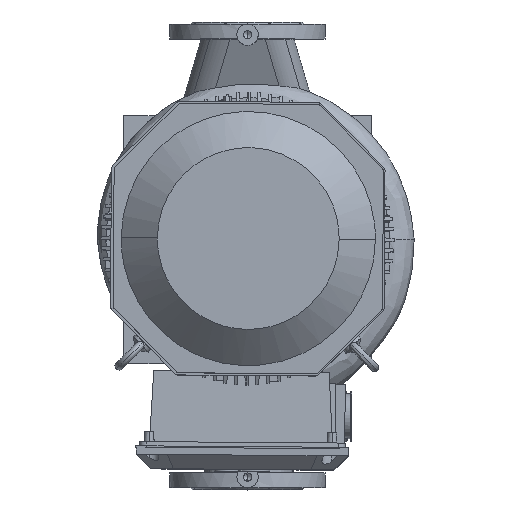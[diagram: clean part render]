
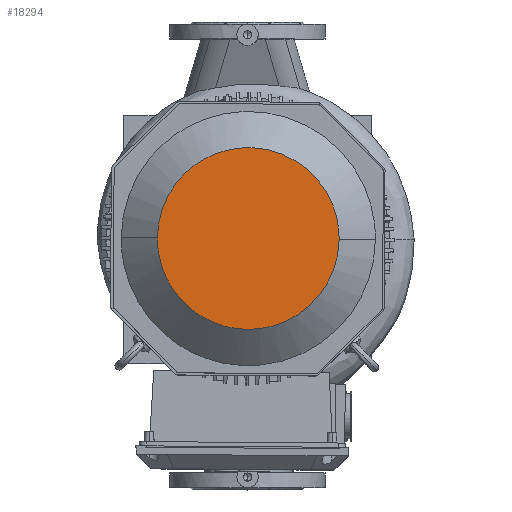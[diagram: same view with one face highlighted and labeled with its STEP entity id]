
A CAD part, top view. The second image highlights one B-rep face of the part: STEP entity #18294.
In plain terms, the highlighted free-form (B-spline) face has degree [1, 1] with [2, 2] control points.
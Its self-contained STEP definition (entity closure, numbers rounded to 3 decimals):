
#18294=ADVANCED_FACE('     F36',(#35529),#35530,.T.);
#18376=EDGE_CURVE('     E99',#35655,#35656,#35657,.T.);
#18380=EDGE_CURVE('     E99',#35656,#35655,#35661,.T.);
#35529=FACE_OUTER_BOUND('',#87361,.T.);
#35530=B_SPLINE_SURFACE_WITH_KNOTS('',1,1,((#87362,#87363),(#87364,#87365)),.UNSPECIFIED.,.F.,.F.,.F.,(2,2),(2,2),(0.044,0.955),(0.039,0.96),.UNSPECIFIED.);
#35655=VERTEX_POINT('',#87806);
#35656=VERTEX_POINT('',#87807);
#35657=(B_SPLINE_CURVE(2,(#87809,#87810,#87811,#87812,#87813),.UNSPECIFIED.,.F.,.F.)B_SPLINE_CURVE_WITH_KNOTS((3,2,3),(64.683,86.244,129.365),.UNSPECIFIED.)RATIONAL_B_SPLINE_CURVE((0.75,0.75,1.0,0.5,1.0))BOUNDED_CURVE()REPRESENTATION_ITEM('')GEOMETRIC_REPRESENTATION_ITEM()CURVE());
#35661=(B_SPLINE_CURVE(2,(#87827,#87828,#87829,#87830,#87831),.UNSPECIFIED.,.F.,.F.)B_SPLINE_CURVE_WITH_KNOTS((3,2,3),(0.0,43.122,64.683),.UNSPECIFIED.)RATIONAL_B_SPLINE_CURVE((1.0,0.5,1.0,0.75,0.75))BOUNDED_CURVE()REPRESENTATION_ITEM('')GEOMETRIC_REPRESENTATION_ITEM()CURVE());
#87361=EDGE_LOOP('',(#103267,#103268));
#87362=CARTESIAN_POINT('',(-269.045,153.272,-215.6));
#87363=CARTESIAN_POINT('',(-269.045,-103.789,-215.6));
#87364=CARTESIAN_POINT('',(-12.172,153.272,-215.6));
#87365=CARTESIAN_POINT('',(-12.172,-103.789,-215.6));
#87806=CARTESIAN_POINT('',(-268.613,24.546,-215.6));
#87807=CARTESIAN_POINT('',(-12.181,24.546,-215.6));
#87809=CARTESIAN_POINT('',(-268.613,24.546,-215.6));
#87810=CARTESIAN_POINT('',(-268.613,-49.479,-215.6));
#87811=CARTESIAN_POINT('',(-204.505,-86.492,-215.6));
#87812=CARTESIAN_POINT('',(-12.181,-197.531,-215.6));
#87813=CARTESIAN_POINT('',(-12.181,24.546,-215.6));
#87827=CARTESIAN_POINT('',(-12.181,24.546,-215.6));
#87828=CARTESIAN_POINT('',(-12.181,246.623,-215.6));
#87829=CARTESIAN_POINT('',(-204.505,135.585,-215.6));
#87830=CARTESIAN_POINT('',(-268.613,98.572,-215.6));
#87831=CARTESIAN_POINT('',(-268.613,24.546,-215.6));
#103267=ORIENTED_EDGE('',*,*,#18380,.F.);
#103268=ORIENTED_EDGE('',*,*,#18376,.F.);
